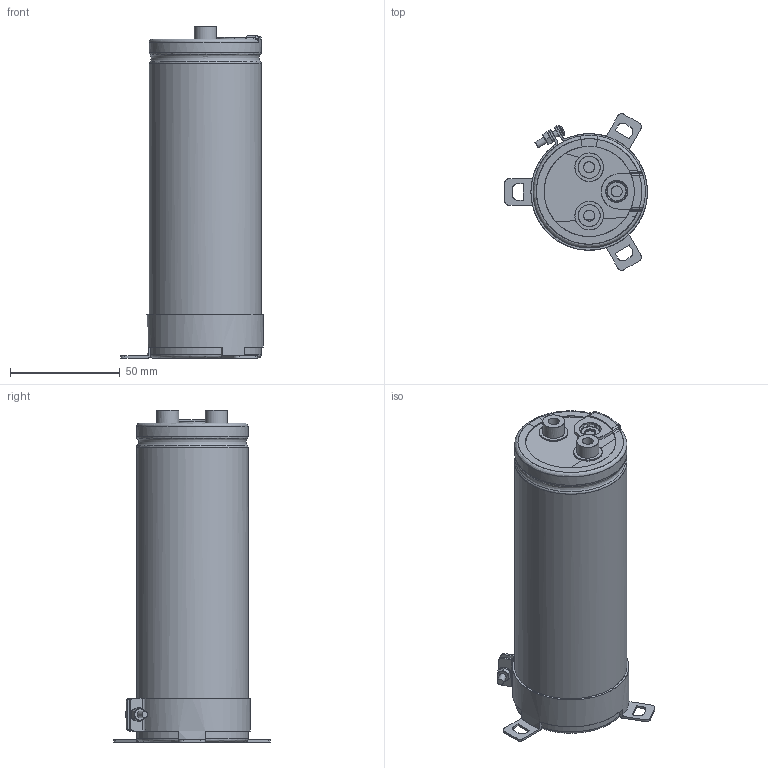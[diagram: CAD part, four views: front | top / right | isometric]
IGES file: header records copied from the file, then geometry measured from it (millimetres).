
Start section: JAMA-IS VERSION  1.0
Bounding box: 65 x 71.22 x 151 mm (x, y, z)
Surface area: 83865.2 mm2 (no closed solid volume)
Topology: 0 solids, 0 shells, 298 faces, 4625 edges, 4595 vertices
Faces by surface type: bspline 298
